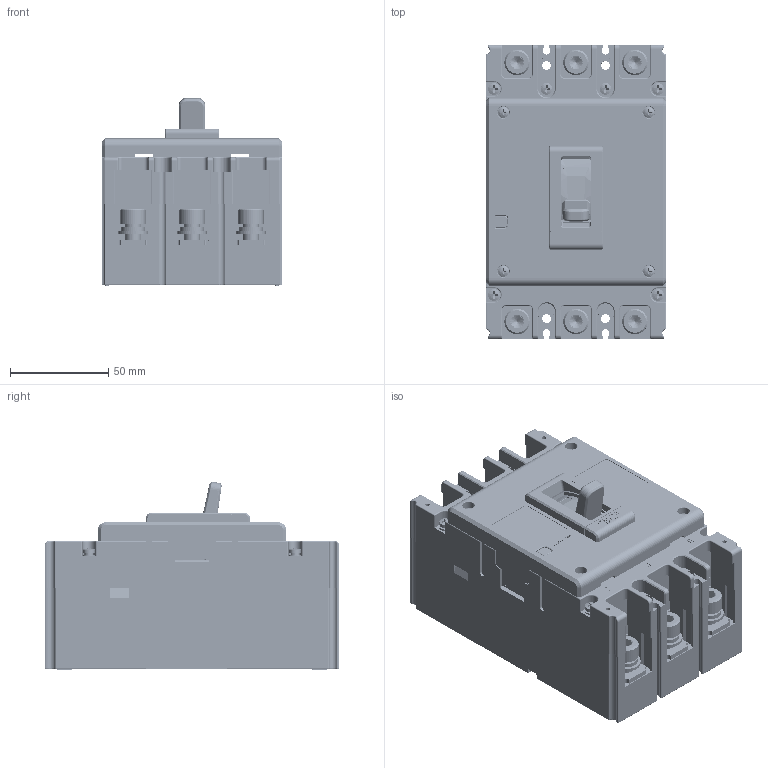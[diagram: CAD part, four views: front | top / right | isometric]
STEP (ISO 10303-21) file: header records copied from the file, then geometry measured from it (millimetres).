
FILE_DESCRIPTION((''),'2;1');
FILE_NAME('2253024600_ASM_ASM','2021-06-10T',('guobiao.he'),(''),'PRO/ENGINEER BY PARAMETRIC TECHNOLOGY CORPORATION, 2015440','PRO/ENGINEER BY PARAMETRIC TECHNOLOGY CORPORATION, 2015440','');
FILE_SCHEMA(('CONFIG_CONTROL_DESIGN'));
Products named in the file (62): JZ8024044700_153; GB_T809_M3_5X12_4; 5024044700_ASM_164_ASM; 8551037900_1; 8550079800_8; 5551081000_ASM_2_ASM; GB_T823-M3_5X10_7; 7090300201_GB_T93_3_10; 8950019500_5; 5850004500_ASM_1_ASM; 5551103300_ASM_14_ASM; GB_T109-2X7_12; 5420213400_ASM_23_ASM; 8585071200_4; 5420213500_AF2_ASM_19_ASM; MANIFOLD_SOLID_BREP_96589; MANIFOLD_SOLID_BREP_96740; 8505030300_10_ASM; 5551103400_AF2_ASM_34_ASM; 8964011500_6; 5551103500_AF2_ASM_15_ASM; 5420213500_AF0_ASM_19_ASM; 5551103400_AF0_ASM_34_ASM; 5551103500_AF0_ASM_15_ASM; 5420213500_AF1_ASM_19_ASM; 5551103400_AF1_ASM_34_ASM; 5551103500_AF1_ASM_15_ASM; 8205068800_3; 55511035P02_2; 5551105900_ASM_15_ASM; 5551108100_ASM_12_ASM; 8205068700_2; 5551108200_ASM_10_ASM; GB_T818-M3X8_3; 8950022000_1; 5850005300_ASM_2_ASM; GB_T823-M3_5X25_7; 5850007100_ASM_2_ASM; 8231017100_3; 5295008400_ASM_57_ASM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
Assembly tree (118 placements, depth 11):
  2253024600_ASM_ASM
    2253024600_ASM_48_ASM
      5295008400_ASM_57_ASM
        5024044700_ASM_164_ASM
          JZ8024044700_153
          GB_T809_M3_5X12_4  x6
        5551081000_ASM_2_ASM  x3
          8551037900_1
          8550079800_8
        5850004500_ASM_1_ASM  x6
          GB_T823-M3_5X10_7
          7090300201_GB_T93_3_10
          8950019500_5
        5551108200_ASM_10_ASM
          5551108100_ASM_12_ASM
            5551105900_ASM_15_ASM
              5551103500_AF2_ASM_15_ASM
                5551103400_AF2_ASM_34_ASM
                  5551103300_ASM_14_ASM
                  5420213500_AF2_ASM_19_ASM
                  8505030300_10_ASM  x2
                8964011500_6
              5551103500_AF0_ASM_15_ASM
                5551103400_AF0_ASM_34_ASM
                  5551103300_ASM_14_ASM
                  5420213500_AF0_ASM_19_ASM
                  8505030300_10_ASM  x2
                8964011500_6
              5551103500_AF1_ASM_15_ASM
                5551103400_AF1_ASM_34_ASM
                  5551103300_ASM_14_ASM
                  5420213500_AF1_ASM_19_ASM
                  8505030300_10_ASM  x2
                8964011500_6
              8205068800_3
              55511035P02_2  x2
          8205068700_2
        5850005300_ASM_2_ASM  x3
          GB_T818-M3X8_3
          7090300201_GB_T93_3_10
          8950022000_1
        5850007100_ASM_2_ASM  x4
          GB_T823-M3_5X25_7
          7090300201_GB_T93_3_10
          8950019500_5
        8231017100_3
      8742111600_2  x3
      8742111500_1  x3
      8156031900_1  x2
      5253029000_ASM_21_ASM
        8253076900_21
      8750034300_1  x3
      5315052100_ASM_26_ASM
        5315051000_ASM_19_ASM
          8315096100_114
          8282073000_AF0_2
          8253076800_16
        8315096300_52
        7020100411_GB13806_2_ST2_9X8_A_  x4
      5850007200_ASM_4_ASM  x6
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Bounding box: 92 x 150 x 95.97 mm (x, y, z)
Volume: 369024.6 mm3; surface area: 302389.8 mm2
Topology: 136 solids, 136 shells, 8156 faces, 21548 edges, 13675 vertices
Faces by surface type: plane 4577, cylinder 2394, torus 297, extrusion 264, sphere 244, cone 214, bspline 166
Entity records: 217535 total; most frequent: CARTESIAN_POINT 52556, ORIENTED_EDGE 34726, DIRECTION 33596, EDGE_CURVE 17363, VECTOR 11908, LINE 11644, VERTEX_POINT 11140, AXIS2_PLACEMENT_3D 10844
